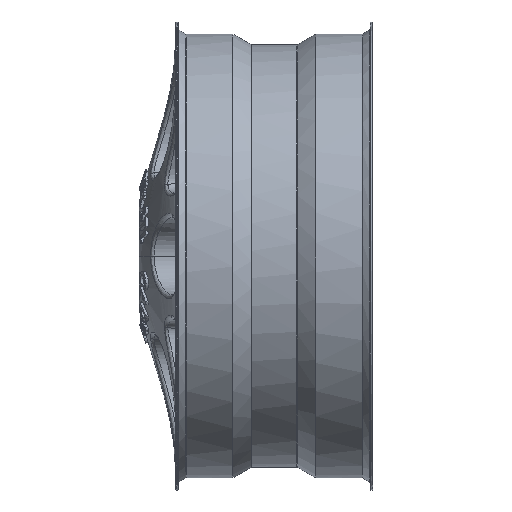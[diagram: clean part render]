
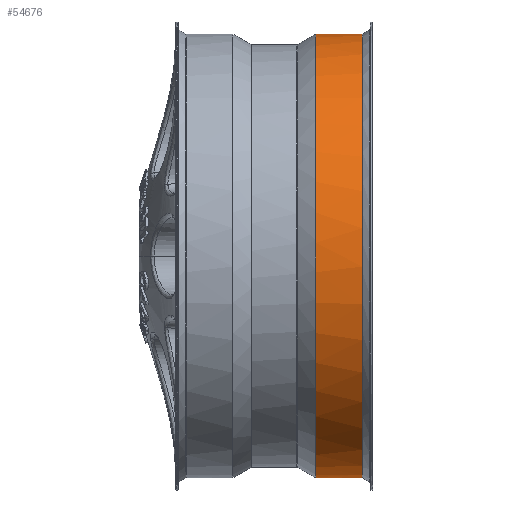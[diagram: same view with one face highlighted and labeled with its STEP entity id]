
A CAD part, left-side view. The second image highlights one B-rep face of the part: STEP entity #54676.
In plain terms, the highlighted cylindrical face has radius 237 mm (diameter 474 mm), a partial arc.
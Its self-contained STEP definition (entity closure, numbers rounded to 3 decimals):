
#53432=CARTESIAN_POINT('',(0.,-199.454,-237.0));
#53433=VERTEX_POINT('',#53432);
#53449=CARTESIAN_POINT('',(0.,-199.454,237.0));
#53450=VERTEX_POINT('',#53449);
#53558=CARTESIAN_POINT('',(0.,-149.722,237.0));
#53559=VERTEX_POINT('',#53558);
#53590=CARTESIAN_POINT('',(0.,-149.722,-237.0));
#53591=VERTEX_POINT('',#53590);
#53605=CARTESIAN_POINT('',(0.,-149.722,237.0));
#53606=CARTESIAN_POINT('',(-237.,-149.722,237.));
#53607=CARTESIAN_POINT('',(-237.,-149.722,0.0));
#53608=CARTESIAN_POINT('',(-237.,-149.722,-237.));
#53609=CARTESIAN_POINT('',(0.,-149.722,-237.0));
#53617=(BOUNDED_CURVE()B_SPLINE_CURVE(2,(#53605,#53606,#53607,#53608,#53609),.UNSPECIFIED.,.F.,.U.)B_SPLINE_CURVE_WITH_KNOTS((3,2,3),(0.0,0.5,1.0),.UNSPECIFIED.)CURVE()GEOMETRIC_REPRESENTATION_ITEM()RATIONAL_B_SPLINE_CURVE((1.0,0.707,1.0,0.707,1.0))REPRESENTATION_ITEM(''));
#53618=EDGE_CURVE('',#53559,#53591,#53617,.T.);
#54639=CARTESIAN_POINT('',(0.,-199.454,0.));
#54640=DIRECTION('',(0.0,1.0,0.));
#54641=DIRECTION('',(1.,0.,0.004));
#54642=AXIS2_PLACEMENT_3D('',#54639,#54640,#54641);
#54643=CYLINDRICAL_SURFACE('',#54642,237.0);
#54644=CARTESIAN_POINT('',(0.,-199.454,-237.0));
#54645=DIRECTION('',(0.0,1.0,0.0));
#54646=VECTOR('',#54645,49.732);
#54647=LINE('',#54644,#54646);
#54648=EDGE_CURVE('',#53433,#53591,#54647,.T.);
#54649=ORIENTED_EDGE('',*,*,#54648,.F.);
#54650=CARTESIAN_POINT('',(0.,-199.454,-237.0));
#54651=CARTESIAN_POINT('',(-136.832,-199.454,-237.));
#54652=CARTESIAN_POINT('',(-205.248,-199.454,-118.5));
#54653=CARTESIAN_POINT('',(-273.664,-199.454,0.));
#54654=CARTESIAN_POINT('',(-205.248,-199.454,118.5));
#54655=CARTESIAN_POINT('',(-136.832,-199.454,237.));
#54656=CARTESIAN_POINT('',(0.,-199.454,237.0));
#54664=(BOUNDED_CURVE()B_SPLINE_CURVE(2,(#54650,#54651,#54652,#54653,#54654,#54655,#54656),.UNSPECIFIED.,.F.,.U.)B_SPLINE_CURVE_WITH_KNOTS((3,2,2,3),(0.0,0.333,0.667,1.0),.UNSPECIFIED.)CURVE()GEOMETRIC_REPRESENTATION_ITEM()RATIONAL_B_SPLINE_CURVE((1.0,0.866,1.0,0.866,1.0,0.866,1.0))REPRESENTATION_ITEM(''));
#54665=EDGE_CURVE('',#53433,#53450,#54664,.T.);
#54666=ORIENTED_EDGE('',*,*,#54665,.T.);
#54667=CARTESIAN_POINT('',(0.,-199.454,237.0));
#54668=DIRECTION('',(0.0,1.0,0.0));
#54669=VECTOR('',#54668,49.732);
#54670=LINE('',#54667,#54669);
#54671=EDGE_CURVE('',#53450,#53559,#54670,.T.);
#54672=ORIENTED_EDGE('',*,*,#54671,.T.);
#54673=ORIENTED_EDGE('',*,*,#53618,.T.);
#54674=EDGE_LOOP('',(#54649,#54666,#54672,#54673));
#54675=FACE_OUTER_BOUND('',#54674,.T.);
#54676=ADVANCED_FACE('',(#54675),#54643,.T.);
